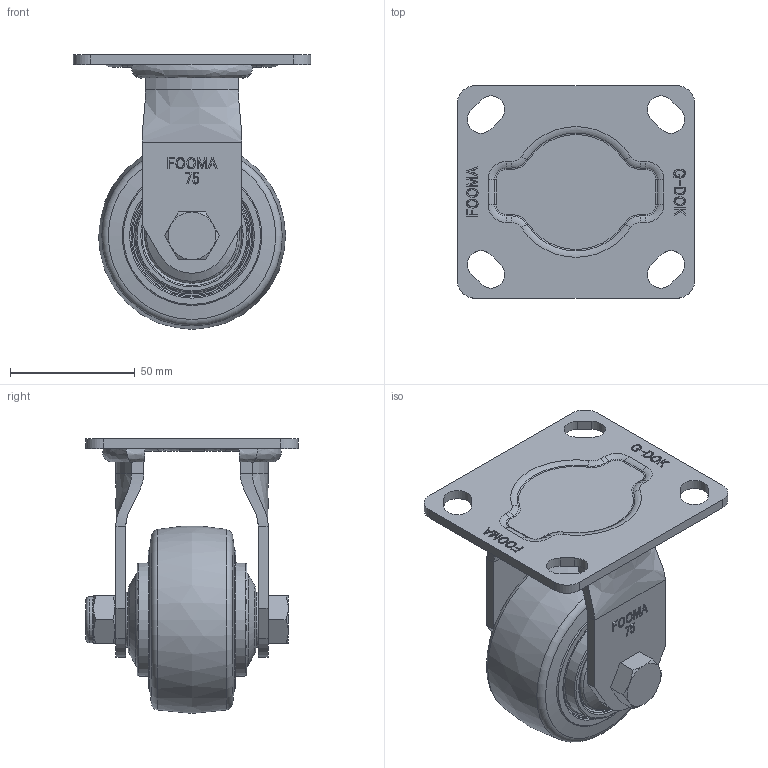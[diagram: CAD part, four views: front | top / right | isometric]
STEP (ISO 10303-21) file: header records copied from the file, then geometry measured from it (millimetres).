
FILE_DESCRIPTION(/* description */ (''),/* implementation_level */ '2;1');
FILE_NAME(/* name */ 'E:\★.DWG\★개발도면\PLM-SERIES(경중하중)-2016\홈페이지용\STEP\PLM-75-ARF-MUD.stp',/* time_stamp */ '2018-01-30T16:20:29+09:00',/* author */ ('장용하'),/* organization */ (''),/* preprocessor_version */ 'ST-DEVELOPER v16.13',/* originating_system */ 'Autodesk Inventor 2018',/* authorisation */ '');
FILE_SCHEMA (('AUTOMOTIVE_DESIGN { 1 0 10303 214 3 1 1 }'));
Length unit declared in the file: millimetre
Products named in the file (1): PLM-75-ARF-MUD ASSY_Shrinkwrap_1
Bounding box: 95 x 85 x 110 mm (x, y, z)
Volume: 224030.4 mm3; surface area: 53152 mm2
Topology: 1 solids, 1 shells, 654 faces, 1697 edges, 1099 vertices
Faces by surface type: plane 308, bspline 190, torus 76, cylinder 55, cone 25
Full cylindrical faces by diameter (mm): 18.5 x1, 22 x4, 36 x2, 38 x2, 40 x2, 55 x2
Entity records: 21114 total; most frequent: CARTESIAN_POINT 5746, ORIENTED_EDGE 3270, DIRECTION 2515, EDGE_CURVE 1635, VERTEX_POINT 1091, LINE 867, VECTOR 867, AXIS2_PLACEMENT_3D 824
